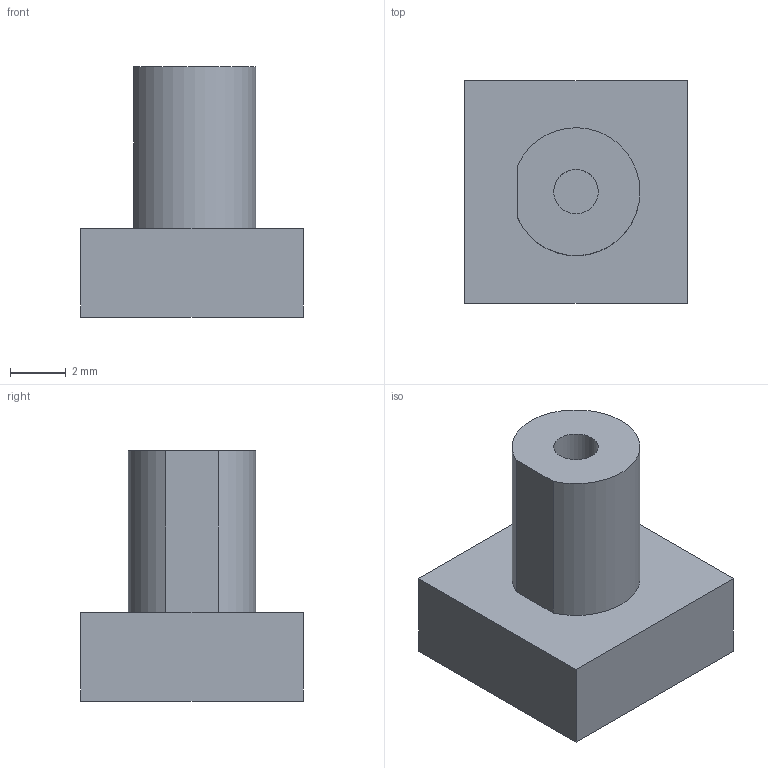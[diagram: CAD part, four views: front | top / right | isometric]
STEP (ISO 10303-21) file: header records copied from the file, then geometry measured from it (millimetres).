
FILE_DESCRIPTION(('Open CASCADE Model'),'2;1');
FILE_NAME('Open CASCADE Shape Model','2026-09-15T13:37:42',('Author'),( 'Open CASCADE'),'Open CASCADE STEP processor 7.7','Open CASCADE 7.7' ,'Unknown');
FILE_SCHEMA(('AUTOMOTIVE_DESIGN { 1 0 10303 214 1 1 1 1 }'));
Length unit declared in the file: millimetre
Products named in the file (1): Open CASCADE STEP translator 7.7 3
Bounding box: 8 x 8 x 9 mm (x, y, z)
Volume: 290.5 mm3; surface area: 337 mm2
Topology: 1 solids, 1 shells, 11 faces, 21 edges, 14 vertices
Faces by surface type: plane 9, cylinder 2
Full cylindrical faces by diameter (mm): 1.6 x1
Entity records: 560 total; most frequent: CARTESIAN_POINT 109, DIRECTION 81, LINE 47, VECTOR 47, ORIENTED_EDGE 42, PCURVE 42, DEFINITIONAL_REPRESENTATION 42, EDGE_CURVE 21
